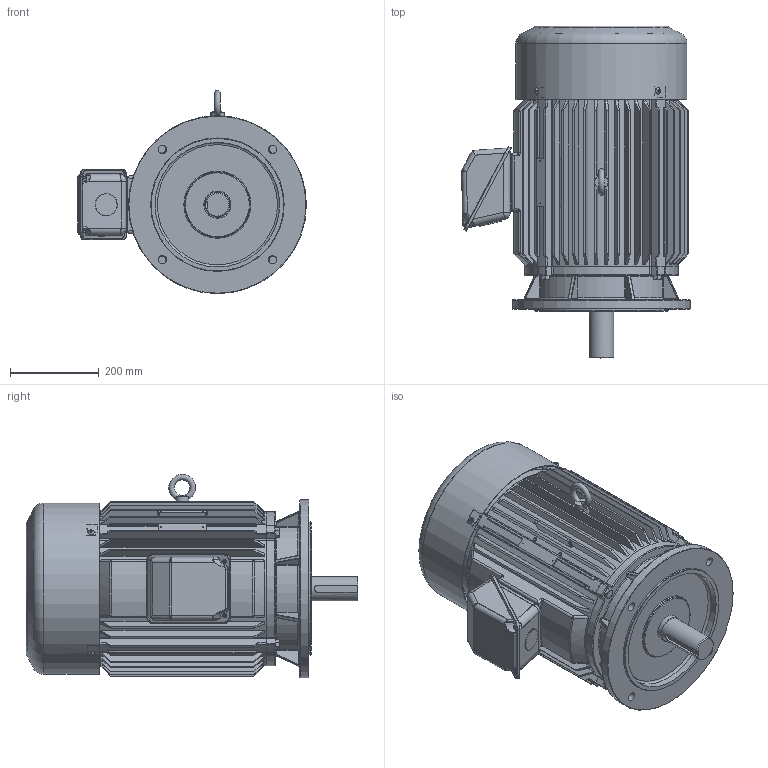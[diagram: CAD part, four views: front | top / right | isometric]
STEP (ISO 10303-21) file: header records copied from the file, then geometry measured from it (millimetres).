
FILE_DESCRIPTION(/* description */ ('Unknown'),/* implementation_level */ '2;1');
FILE_NAME(/* name */ '1-SMA-33840_외형도(330DIA)',/* time_stamp */ '2026-07-24T09:16:37+09:00',/* author */ ('Unknown'),/* organization */ ('Unknown'),/* preprocessor_version */ 'ST-DEVELOPER v16',/* originating_system */ 'DEX',/* authorisation */ $);
FILE_SCHEMA (('AUTOMOTIVE_DESIGN {1 0 10303 214 3 1 1}'));
Products named in the file (19): 1-SMA-33840_¿ÜÇüµµ(330DIxÆÖÄ³(; 2-SMA-31054B_FRAME(330DIA); 3-SMA-31055_擅粽塭鰍(330D; 4-SMA-31050_µÚºê¶óÄÏ(330Dd˜	; 5-SMA-31052A_SHAFT(330DIA); 6-SMA-31247_FAN(330DIA); 7-SMA-31053-1_FAN COVER(330DIA); I獐お M16x2.0x27; 幫陝獐お M12x1.75xe; 褊濠 菅斬 該葬 獐お M8x1; 18.5~37kW_攪嘐割 夢蝶(300~330; T-BOX憶っ(300~330DIA; 18.5~37kW_ｰ晥ｫﾆﾐﾅｷ(300~330Dﾐ(; 褊濠 菅斬 該葬 獐お M5x; 9-SMA-33053_T-BOX(ж); 8-SMA-33052_T-BOX(鼻); 蹴辨 S5; 6312ZZ; 6311ZZ
Assembly tree (29 placements, depth 3):
  1-SMA-33840_¿ÜÇüµµ(330DIxÆÖÄ³(
    2-SMA-31054B_FRAME(330DIA)
    3-SMA-31055_擅粽塭鰍(330D
    4-SMA-31050_µÚºê¶óÄÏ(330Dd˜	
    5-SMA-31052A_SHAFT(330DIA)
    6-SMA-31247_FAN(330DIA)
    7-SMA-31053-1_FAN COVER(330DIA)
    I獐お M16x2.0x27
    幫陝獐お M12x1.75xe  x8
    褊濠 菅斬 該葬 獐お M8x1  x4
    18.5~37kW_攪嘐割 夢蝶(300~330
      T-BOX憶っ(300~330DIA
      18.5~37kW_ｰ晥ｫﾆﾐﾅｷ(300~330Dﾐ(
      褊濠 菅斬 該葬 獐お M5x  x2
      9-SMA-33053_T-BOX(ж)
      8-SMA-33052_T-BOX(鼻)
    蹴辨 S5
    6312ZZ
    6311ZZ
Bounding box: 514.21 x 745.99 x 456.99 mm (x, y, z)
Volume: 14359093.4 mm3; surface area: 3763957.2 mm2
Topology: 50 solids, 50 shells, 2507 faces, 6232 edges, 3823 vertices
Faces by surface type: cylinder 812, plane 729, cone 435, bspline 272, torus 211, sphere 48
Full cylindrical faces by diameter (mm): 2.2 x4, 2.5 x2, 4.134 x2, 4.917 x6, 5 x2, 6 x2, 6.647 x1, 7 x2, 8 x14, 8.376 x2, 9 x2, 10.106 x17, 12 x16, 13.835 x1, 14 x12, 16 x2, 19 x4, 30 x1, 50 x4, 54.8 x1, 55 x3, 55.8 x1, 59.8 x1, 60 x2, 60.8 x1, 65.1 x1, 68 x2, 69 x1, 72 x1, 73.571 x2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
Entity records: 99608 total; most frequent: CARTESIAN_POINT 40280, ORIENTED_EDGE 10780, DIRECTION 10475, EDGE_CURVE 5390, AXIS2_PLACEMENT_3D 4281, VERTEX_POINT 3476, FACE_BOUND 2726, EDGE_LOOP 2697
